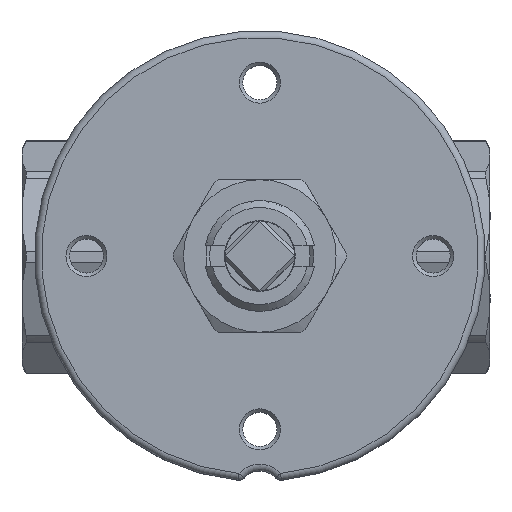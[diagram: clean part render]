
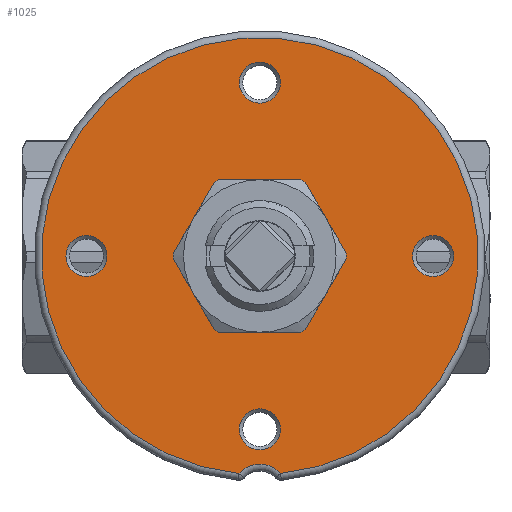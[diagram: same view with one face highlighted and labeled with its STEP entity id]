
A CAD part, top view. The second image highlights one B-rep face of the part: STEP entity #1025.
In plain terms, the highlighted planar face has unit normal (0, 0, 1) as drawn and (-1, 0, 0) by its records, which use the part's own axes.
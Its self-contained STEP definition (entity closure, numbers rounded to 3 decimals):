
#941=CARTESIAN_POINT('',(-12.5,2.959,-25.0));
#942=VERTEX_POINT('',#941);
#943=CARTESIAN_POINT('',(-12.5,0.,-25.0));
#944=DIRECTION('',(-1.0,0.0,0.0));
#945=DIRECTION('',(0.0,-1.0,0.0));
#946=AXIS2_PLACEMENT_3D('',#943,#944,#945);
#947=CIRCLE('',#946,2.959);
#948=EDGE_CURVE('',#942,#942,#947,.T.);
#953=CARTESIAN_POINT('',(-12.5,16.25,0.0));
#954=DIRECTION('',(-1.0,0.0,0.0));
#955=DIRECTION('',(0.0,0.0,1.0));
#956=AXIS2_PLACEMENT_3D('',#953,#954,#955);
#957=PLANE('',#956);
#958=CARTESIAN_POINT('',(-12.5,3.002,31.357));
#959=VERTEX_POINT('',#958);
#960=CARTESIAN_POINT('',(-12.5,-3.002,31.357));
#961=VERTEX_POINT('',#960);
#962=CARTESIAN_POINT('',(-12.5,0.,34.0));
#963=DIRECTION('',(-1.0,0.0,0.0));
#964=DIRECTION('',(0.0,0.0,-1.0));
#965=AXIS2_PLACEMENT_3D('',#962,#963,#964);
#966=CIRCLE('',#965,4.0);
#967=EDGE_CURVE('',#959,#961,#966,.T.);
#968=ORIENTED_EDGE('',*,*,#967,.F.);
#969=CARTESIAN_POINT('',(-12.5,0.,0.0));
#970=DIRECTION('',(1.0,0.0,0.0));
#971=DIRECTION('',(0.0,-1.0,0.0));
#972=AXIS2_PLACEMENT_3D('',#969,#970,#971);
#973=CIRCLE('',#972,31.5);
#974=EDGE_CURVE('',#961,#959,#973,.T.);
#975=ORIENTED_EDGE('',*,*,#974,.F.);
#976=EDGE_LOOP('',(#968,#975));
#977=FACE_OUTER_BOUND('',#976,.T.);
#978=CARTESIAN_POINT('',(-12.5,27.958,0.));
#979=VERTEX_POINT('',#978);
#980=CARTESIAN_POINT('',(-12.5,25.0,0.0));
#981=DIRECTION('',(-1.0,0.0,0.0));
#982=DIRECTION('',(0.0,-1.0,0.0));
#983=AXIS2_PLACEMENT_3D('',#980,#981,#982);
#984=CIRCLE('',#983,2.958);
#985=EDGE_CURVE('',#979,#979,#984,.T.);
#986=ORIENTED_EDGE('',*,*,#985,.F.);
#987=EDGE_LOOP('',(#986));
#988=FACE_BOUND('',#987,.T.);
#989=CARTESIAN_POINT('',(-12.5,2.959,25.0));
#990=VERTEX_POINT('',#989);
#991=CARTESIAN_POINT('',(-12.5,0.,25.0));
#992=DIRECTION('',(-1.0,0.0,0.0));
#993=DIRECTION('',(0.0,-1.0,0.0));
#994=AXIS2_PLACEMENT_3D('',#991,#992,#993);
#995=CIRCLE('',#994,2.959);
#996=EDGE_CURVE('',#990,#990,#995,.T.);
#997=ORIENTED_EDGE('',*,*,#996,.F.);
#998=EDGE_LOOP('',(#997));
#999=FACE_BOUND('',#998,.T.);
#1000=CARTESIAN_POINT('',(-12.5,-8.,0.));
#1001=VERTEX_POINT('',#1000);
#1002=CARTESIAN_POINT('',(-12.5,0.,0.0));
#1003=DIRECTION('',(1.0,0.0,0.0));
#1004=DIRECTION('',(0.0,1.0,0.0));
#1005=AXIS2_PLACEMENT_3D('',#1002,#1003,#1004);
#1006=CIRCLE('',#1005,8.0);
#1007=EDGE_CURVE('',#1001,#1001,#1006,.T.);
#1008=ORIENTED_EDGE('',*,*,#1007,.T.);
#1009=EDGE_LOOP('',(#1008));
#1010=FACE_BOUND('',#1009,.T.);
#1011=CARTESIAN_POINT('',(-12.5,-22.042,0.));
#1012=VERTEX_POINT('',#1011);
#1013=CARTESIAN_POINT('',(-12.5,-25.0,0.0));
#1014=DIRECTION('',(-1.0,0.0,0.0));
#1015=DIRECTION('',(0.0,-1.0,0.0));
#1016=AXIS2_PLACEMENT_3D('',#1013,#1014,#1015);
#1017=CIRCLE('',#1016,2.958);
#1018=EDGE_CURVE('',#1012,#1012,#1017,.T.);
#1019=ORIENTED_EDGE('',*,*,#1018,.F.);
#1020=EDGE_LOOP('',(#1019));
#1021=FACE_BOUND('',#1020,.T.);
#1022=ORIENTED_EDGE('',*,*,#948,.F.);
#1023=EDGE_LOOP('',(#1022));
#1024=FACE_BOUND('',#1023,.T.);
#1025=ADVANCED_FACE('',(#977,#988,#999,#1010,#1021,#1024),#957,.T.);
